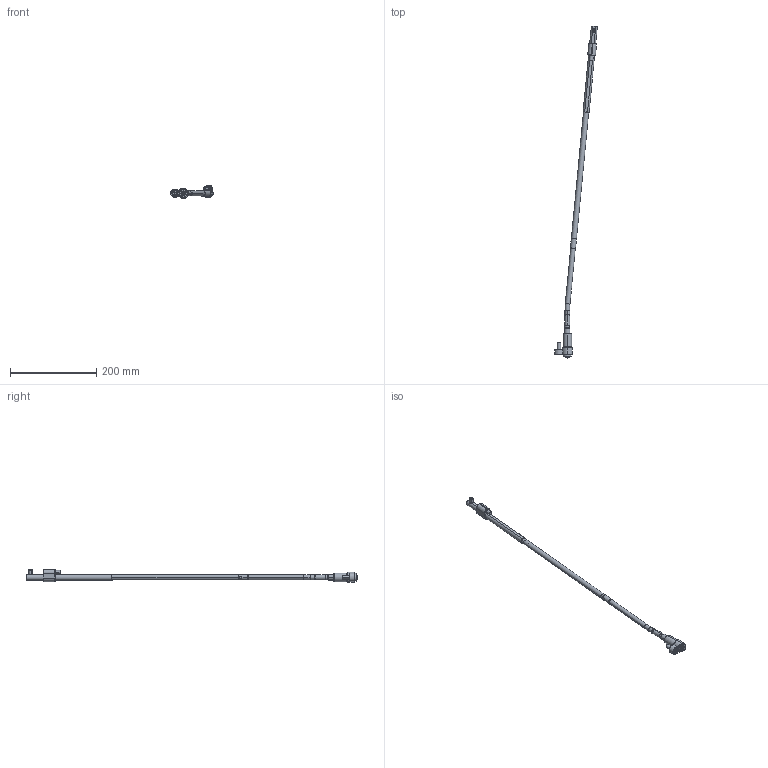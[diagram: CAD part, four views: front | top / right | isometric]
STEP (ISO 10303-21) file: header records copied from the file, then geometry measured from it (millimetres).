
FILE_DESCRIPTION (( 'STEP AP214' ), '1' );
FILE_NAME ('WL120125-EJE 5,5°.STEP', '2021-03-19T15:38:42', ( '' ), ( '' ), 'SwSTEP 2.0', 'SolidWorks 2019', '' );
FILE_SCHEMA (( 'AUTOMOTIVE_DESIGN' ));
Length unit declared in the file: millimetre
Products named in the file (17): Web-WL12-A2; WL120125-EJE 5,5°; 8WL12EJEP; Web-WL12-A8; WL120100-B1; Web-WL12-F00.SLDPRT; 1DIN912820_DIN 912 M8 x 20 --- 20C; Web-WL12-XX_ON-WL120125-5,5; 1DIN912645_DIN 912 M6 x 45 --- 45C; WL120100-B; Web-WL12-A1; Web-WL12-A3; WL120100-D; WL120100-E; Web-WL12-F01; 3IMAN5X3-150_con sellador; 9DR2808-TOR
Assembly tree (16 placements, depth 3):
  WL120125-EJE 5,5°
    Web-WL12-A8
    Web-WL12-XX_ON-WL120125-5,5
    Web-WL12-A3
    Web-WL12-A2
    Web-WL12-A1
    Web-WL12-F00.SLDPRT
      Web-WL12-F01
      1DIN912820_DIN 912 M8 x 20 --- 20C
      1DIN912645_DIN 912 M6 x 45 --- 45C
    WL120100-D
    8WL12EJEP
    WL120100-E
    9DR2808-TOR
    WL120100-B
      WL120100-B1
      3IMAN5X3-150_con sellador
Bounding box: 99.05 x 770.63 x 29.9 mm (x, y, z)
Volume: 116547.8 mm3; surface area: 51029.8 mm2
Topology: 15 solids, 15 shells, 432 faces, 906 edges, 525 vertices
Faces by surface type: plane 139, cylinder 123, cone 120, torus 50
Entity records: 13661 total; most frequent: DIRECTION 2240, CARTESIAN_POINT 2104, ORIENTED_EDGE 1788, AXIS2_PLACEMENT_3D 929, EDGE_CURVE 894, VERTEX_POINT 525, EDGE_LOOP 477, CIRCLE 476
